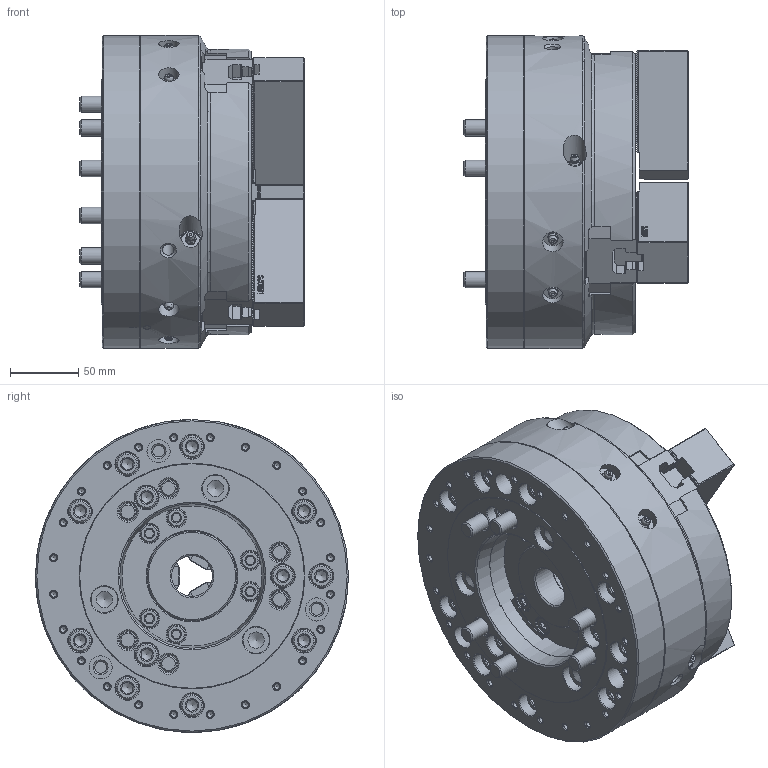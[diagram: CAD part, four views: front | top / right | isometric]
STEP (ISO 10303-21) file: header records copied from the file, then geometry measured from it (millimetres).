
FILE_DESCRIPTION (( 'STEP AP214' ), '1' );
FILE_NAME ('DT1_HOH-208_OUTSIDE_VIEW_HOL.STEP', '2024-05-09T06:46:08', ( '' ), ( '' ), 'SwSTEP 2.0', 'SolidWorks 2022', '' );
FILE_SCHEMA (( 'AUTOMOTIVE_DESIGN' ));
Length unit declared in the file: millimetre
Products named in the file (9): DT1_HOH-208_TNUT^DT1_HOH-208_ﾃﾞﾌｫﾙﾄ; DT1_HOH-208_DRAWNUT^DT1_HOH-208_ﾃﾞﾌｫﾙﾄ; DT1_HOH-208_M12x30^DT1_HOH-208_ﾃﾞﾌｫﾙﾄ; DT1_HOH-208_BASE^DT1_HOH-208_ﾃﾞﾌｫﾙﾄ; DT1_HOH-208_SOFTJAW^DT1_HOH-208_ﾃﾞﾌｫﾙﾄ; DT1_HOH-208_OUTSIDE_VIEW_HOL; DT1_HOH-208_M12x110^DT1_HOH-208_ﾃﾞﾌｫﾙﾄ; DT1_HOH-208_COVER^DT1_HOH-208_ﾃﾞﾌｫﾙﾄ; DT1_HOH-208_M5x10^DT1_HOH-208_ﾃﾞﾌｫﾙﾄ
Assembly tree (24 placements, depth 2):
  DT1_HOH-208_OUTSIDE_VIEW_HOL
    DT1_HOH-208_SOFTJAW^DT1_HOH-208_ﾃﾞﾌｫﾙﾄ  x3
    DT1_HOH-208_TNUT^DT1_HOH-208_ﾃﾞﾌｫﾙﾄ  x3
    DT1_HOH-208_DRAWNUT^DT1_HOH-208_ﾃﾞﾌｫﾙﾄ
    DT1_HOH-208_COVER^DT1_HOH-208_ﾃﾞﾌｫﾙﾄ
    DT1_HOH-208_BASE^DT1_HOH-208_ﾃﾞﾌｫﾙﾄ
    DT1_HOH-208_M5x10^DT1_HOH-208_ﾃﾞﾌｫﾙﾄ  x3
    DT1_HOH-208_M12x30^DT1_HOH-208_ﾃﾞﾌｫﾙﾄ  x6
    DT1_HOH-208_M12x110^DT1_HOH-208_ﾃﾞﾌｫﾙﾄ  x6
Bounding box: 165 x 230 x 230 mm (x, y, z)
Volume: 4130061.2 mm3; surface area: 447065.7 mm2
Topology: 24 solids, 30 shells, 4447 faces, 12322 edges, 8113 vertices
Faces by surface type: plane 3015, cylinder 596, bspline 454, cone 328, torus 39, sphere 15
Full cylindrical faces by diameter (mm): 2 x3, 4.2 x3, 4.3 x24, 5 x3, 5.5 x3, 8.6 x5, 9.5 x3, 10 x3, 10.2 x6, 12 x12, 13 x6, 13.27 x6, 13.5 x12, 14 x6, 15 x6, 16 x3, 16.27 x12, 17 x18, 18.27 x12, 19 x6, 19.46 x3, 20 x6, 30 x1, 52 x1, 56 x2, 61 x1, 64.8 x2, 66 x2, 72 x2, 103 x1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
Entity records: 105994 total; most frequent: CARTESIAN_POINT 33151, ORIENTED_EDGE 15738, DIRECTION 12926, EDGE_CURVE 7869, VECTOR 5696, LINE 5696, VERTEX_POINT 5360, AXIS2_PLACEMENT_3D 3615
